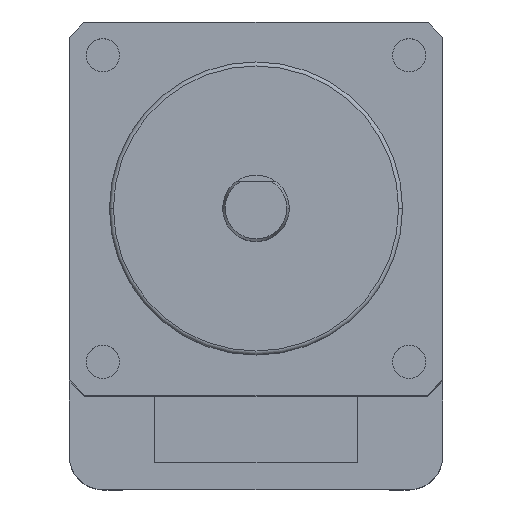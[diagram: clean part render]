
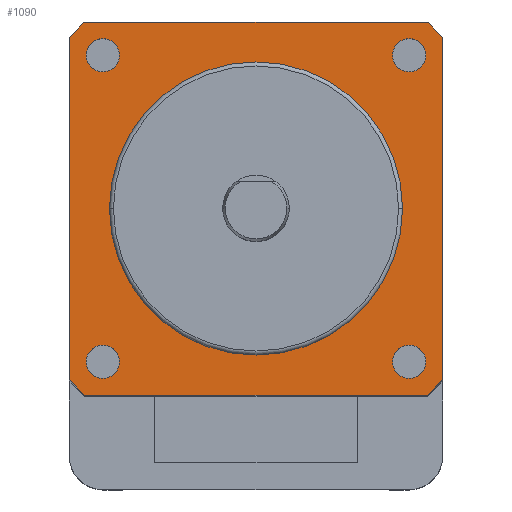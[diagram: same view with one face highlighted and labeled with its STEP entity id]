
A CAD part, top view. The second image highlights one B-rep face of the part: STEP entity #1090.
In plain terms, the highlighted planar face has unit normal (0, 0, 1).
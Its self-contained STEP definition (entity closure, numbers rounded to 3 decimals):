
#11 = EDGE_CURVE ( 'NONE', #673, #665, #1192, .T. ) ;
#37 = CARTESIAN_POINT ( 'NONE',  ( 12.75, -11.5, 0. ) ) ;
#49 = ORIENTED_EDGE ( 'NONE', *, *, #696, .T. ) ;
#61 = VECTOR ( 'NONE', #583, 1000. ) ;
#63 = CIRCLE ( 'NONE', #1466, 1.25 ) ;
#75 = EDGE_CURVE ( 'NONE', #378, #1123, #1669, .T. ) ;
#104 = FACE_OUTER_BOUND ( 'NONE', #1749, .T. ) ;
#126 = FACE_BOUND ( 'NONE', #1598, .T. ) ;
#127 = CARTESIAN_POINT ( 'NONE',  ( 12.845, 14., 0. ) ) ;
#147 = DIRECTION ( 'NONE',  ( 0., 0., -1. ) ) ;
#151 = DIRECTION ( 'NONE',  ( -1., 0., 0. ) ) ;
#152 = CARTESIAN_POINT ( 'NONE',  ( 11.5, 11.5, 0. ) ) ;
#167 = ORIENTED_EDGE ( 'NONE', *, *, #1077, .F. ) ;
#187 = EDGE_LOOP ( 'NONE', ( #1518, #980 ) ) ;
#194 = ORIENTED_EDGE ( 'NONE', *, *, #598, .F. ) ;
#195 = AXIS2_PLACEMENT_3D ( 'NONE', #1019, #727, #1774 ) ;
#223 = ORIENTED_EDGE ( 'NONE', *, *, #75, .F. ) ;
#229 = DIRECTION ( 'NONE',  ( 1., 0., 0. ) ) ;
#245 = VERTEX_POINT ( 'NONE', #1840 ) ;
#252 = DIRECTION ( 'NONE',  ( 0., 0., 1. ) ) ;
#271 = DIRECTION ( 'NONE',  ( 1., 0., 0. ) ) ;
#336 = VERTEX_POINT ( 'NONE', #712 ) ;
#342 = DIRECTION ( 'NONE',  ( 1., 0., 0. ) ) ;
#371 = CIRCLE ( 'NONE', #1039, 19. ) ;
#378 = VERTEX_POINT ( 'NONE', #866 ) ;
#390 = LINE ( 'NONE', #1517, #61 ) ;
#394 = DIRECTION ( 'NONE',  ( 1., 0., 0. ) ) ;
#399 = AXIS2_PLACEMENT_3D ( 'NONE', #413, #147, #151 ) ;
#406 = EDGE_CURVE ( 'NONE', #1063, #1165, #1105, .T. ) ;
#413 = CARTESIAN_POINT ( 'NONE',  ( 0., 0., 0. ) ) ;
#422 = EDGE_CURVE ( 'NONE', #847, #336, #63, .T. ) ;
#426 = CARTESIAN_POINT ( 'NONE',  ( 12.75, 11.5, 0. ) ) ;
#431 = VERTEX_POINT ( 'NONE', #1415 ) ;
#433 = EDGE_LOOP ( 'NONE', ( #473, #167 ) ) ;
#437 = DIRECTION ( 'NONE',  ( -1., 0., 0. ) ) ;
#445 = ORIENTED_EDGE ( 'NONE', *, *, #11, .F. ) ;
#453 = CARTESIAN_POINT ( 'NONE',  ( 0., 0., 0. ) ) ;
#467 = CIRCLE ( 'NONE', #195, 1.25 ) ;
#473 = ORIENTED_EDGE ( 'NONE', *, *, #1126, .F. ) ;
#516 = FACE_BOUND ( 'NONE', #572, .T. ) ;
#526 = EDGE_CURVE ( 'NONE', #378, #431, #1321, .T. ) ;
#555 = CARTESIAN_POINT ( 'NONE',  ( -12.845, 14., 0. ) ) ;
#566 = CARTESIAN_POINT ( 'NONE',  ( 0., 0., 0. ) ) ;
#568 = VERTEX_POINT ( 'NONE', #1737 ) ;
#572 = EDGE_LOOP ( 'NONE', ( #1363, #729 ) ) ;
#583 = DIRECTION ( 'NONE',  ( 0., 1., 0. ) ) ;
#586 = DIRECTION ( 'NONE',  ( 0., 1., 0. ) ) ;
#588 = CARTESIAN_POINT ( 'NONE',  ( -11.5, -11.5, 0. ) ) ;
#598 = EDGE_CURVE ( 'NONE', #1165, #1551, #933, .T. ) ;
#631 = CIRCLE ( 'NONE', #1767, 1.25 ) ;
#655 = CARTESIAN_POINT ( 'NONE',  ( 0., 0., 0. ) ) ;
#665 = VERTEX_POINT ( 'NONE', #1179 ) ;
#673 = VERTEX_POINT ( 'NONE', #426 ) ;
#686 = CIRCLE ( 'NONE', #1030, 1.25 ) ;
#695 = DIRECTION ( 'NONE',  ( -1., 0., 0. ) ) ;
#696 = EDGE_CURVE ( 'NONE', #1512, #1551, #1135, .T. ) ;
#712 = CARTESIAN_POINT ( 'NONE',  ( -10.25, 11.5, 0. ) ) ;
#725 = AXIS2_PLACEMENT_3D ( 'NONE', #655, #1690, #1827 ) ;
#727 = DIRECTION ( 'NONE',  ( 0., 0., 1. ) ) ;
#729 = ORIENTED_EDGE ( 'NONE', *, *, #937, .F. ) ;
#731 = AXIS2_PLACEMENT_3D ( 'NONE', #453, #763, #1806 ) ;
#763 = DIRECTION ( 'NONE',  ( 0., 0., -1. ) ) ;
#768 = CIRCLE ( 'NONE', #835, 1.25 ) ;
#773 = ORIENTED_EDGE ( 'NONE', *, *, #1703, .F. ) ;
#827 = VERTEX_POINT ( 'NONE', #37 ) ;
#834 = EDGE_CURVE ( 'NONE', #665, #673, #631, .T. ) ;
#835 = AXIS2_PLACEMENT_3D ( 'NONE', #588, #878, #271 ) ;
#847 = VERTEX_POINT ( 'NONE', #1522 ) ;
#856 = ORIENTED_EDGE ( 'NONE', *, *, #406, .F. ) ;
#862 = DIRECTION ( 'NONE',  ( 0., 0., -1. ) ) ;
#866 = CARTESIAN_POINT ( 'NONE',  ( -12.845, -14., 0. ) ) ;
#869 = CARTESIAN_POINT ( 'NONE',  ( 10.25, -11.5, 0. ) ) ;
#878 = DIRECTION ( 'NONE',  ( 0., 0., 1. ) ) ;
#904 = EDGE_CURVE ( 'NONE', #1512, #431, #1613, .T. ) ;
#913 = CARTESIAN_POINT ( 'NONE',  ( 14., 12.845, 0. ) ) ;
#933 = CIRCLE ( 'NONE', #399, 19. ) ;
#937 = EDGE_CURVE ( 'NONE', #245, #568, #686, .T. ) ;
#980 = ORIENTED_EDGE ( 'NONE', *, *, #422, .F. ) ;
#988 = ORIENTED_EDGE ( 'NONE', *, *, #904, .F. ) ;
#996 = CARTESIAN_POINT ( 'NONE',  ( 0., 0., 0. ) ) ;
#1019 = CARTESIAN_POINT ( 'NONE',  ( 11.5, -11.5, 0. ) ) ;
#1030 = AXIS2_PLACEMENT_3D ( 'NONE', #1538, #1697, #1683 ) ;
#1039 = AXIS2_PLACEMENT_3D ( 'NONE', #566, #862, #437 ) ;
#1063 = VERTEX_POINT ( 'NONE', #555 ) ;
#1077 = EDGE_CURVE ( 'NONE', #1168, #827, #1886, .T. ) ;
#1082 = VECTOR ( 'NONE', #394, 1000. ) ;
#1090 = ADVANCED_FACE ( 'NONE', ( #1299, #516, #126, #1818, #104 ), #1319, .F. ) ;
#1099 = DIRECTION ( 'NONE',  ( 1., 0., 0. ) ) ;
#1105 = LINE ( 'NONE', #1848, #1252 ) ;
#1108 = DIRECTION ( 'NONE',  ( 0., 0., 1. ) ) ;
#1114 = DIRECTION ( 'NONE',  ( 1., 0., 0. ) ) ;
#1123 = VERTEX_POINT ( 'NONE', #1621 ) ;
#1126 = EDGE_CURVE ( 'NONE', #827, #1168, #467, .T. ) ;
#1128 = CARTESIAN_POINT ( 'NONE',  ( -11.5, 11.5, 0. ) ) ;
#1135 = LINE ( 'NONE', #1193, #1270 ) ;
#1146 = EDGE_CURVE ( 'NONE', #568, #245, #768, .T. ) ;
#1165 = VERTEX_POINT ( 'NONE', #127 ) ;
#1168 = VERTEX_POINT ( 'NONE', #869 ) ;
#1171 = EDGE_CURVE ( 'NONE', #1355, #1063, #371, .T. ) ;
#1179 = CARTESIAN_POINT ( 'NONE',  ( 10.25, 11.5, 0. ) ) ;
#1192 = CIRCLE ( 'NONE', #1545, 1.25 ) ;
#1193 = CARTESIAN_POINT ( 'NONE',  ( 14., 0., 0. ) ) ;
#1213 = AXIS2_PLACEMENT_3D ( 'NONE', #1879, #252, #1294 ) ;
#1223 = DIRECTION ( 'NONE',  ( 0., 0., 1. ) ) ;
#1228 = CARTESIAN_POINT ( 'NONE',  ( 14., -12.845, 0. ) ) ;
#1249 = CARTESIAN_POINT ( 'NONE',  ( 11.5, 11.5, 0. ) ) ;
#1252 = VECTOR ( 'NONE', #229, 1000. ) ;
#1261 = DIRECTION ( 'NONE',  ( 0., 0., 1. ) ) ;
#1270 = VECTOR ( 'NONE', #586, 1000. ) ;
#1294 = DIRECTION ( 'NONE',  ( 1., 0., 0. ) ) ;
#1299 = FACE_BOUND ( 'NONE', #433, .T. ) ;
#1319 = PLANE ( 'NONE',  #1516 ) ;
#1321 = LINE ( 'NONE', #1754, #1082 ) ;
#1355 = VERTEX_POINT ( 'NONE', #1482 ) ;
#1363 = ORIENTED_EDGE ( 'NONE', *, *, #1146, .F. ) ;
#1415 = CARTESIAN_POINT ( 'NONE',  ( 12.845, -14., 0. ) ) ;
#1466 = AXIS2_PLACEMENT_3D ( 'NONE', #1128, #1715, #1114 ) ;
#1482 = CARTESIAN_POINT ( 'NONE',  ( -14., 12.845, 0. ) ) ;
#1512 = VERTEX_POINT ( 'NONE', #1228 ) ;
#1516 = AXIS2_PLACEMENT_3D ( 'NONE', #996, #1587, #695 ) ;
#1517 = CARTESIAN_POINT ( 'NONE',  ( -14., 0., 0. ) ) ;
#1518 = ORIENTED_EDGE ( 'NONE', *, *, #1741, .F. ) ;
#1522 = CARTESIAN_POINT ( 'NONE',  ( -12.75, 11.5, 0. ) ) ;
#1526 = CARTESIAN_POINT ( 'NONE',  ( -11.5, 11.5, 0. ) ) ;
#1538 = CARTESIAN_POINT ( 'NONE',  ( -11.5, -11.5, 0. ) ) ;
#1545 = AXIS2_PLACEMENT_3D ( 'NONE', #152, #1223, #1785 ) ;
#1551 = VERTEX_POINT ( 'NONE', #913 ) ;
#1587 = DIRECTION ( 'NONE',  ( 0., 0., -1. ) ) ;
#1598 = EDGE_LOOP ( 'NONE', ( #445, #1700 ) ) ;
#1613 = CIRCLE ( 'NONE', #725, 19. ) ;
#1621 = CARTESIAN_POINT ( 'NONE',  ( -14., -12.845, 0. ) ) ;
#1669 = CIRCLE ( 'NONE', #731, 19. ) ;
#1672 = ORIENTED_EDGE ( 'NONE', *, *, #526, .T. ) ;
#1683 = DIRECTION ( 'NONE',  ( 1., 0., 0. ) ) ;
#1690 = DIRECTION ( 'NONE',  ( 0., 0., -1. ) ) ;
#1697 = DIRECTION ( 'NONE',  ( 0., 0., 1. ) ) ;
#1700 = ORIENTED_EDGE ( 'NONE', *, *, #834, .F. ) ;
#1703 = EDGE_CURVE ( 'NONE', #1123, #1355, #390, .T. ) ;
#1715 = DIRECTION ( 'NONE',  ( 0., 0., 1. ) ) ;
#1737 = CARTESIAN_POINT ( 'NONE',  ( -10.25, -11.5, 0. ) ) ;
#1741 = EDGE_CURVE ( 'NONE', #336, #847, #1837, .T. ) ;
#1749 = EDGE_LOOP ( 'NONE', ( #773, #223, #1672, #988, #49, #194, #856, #1803 ) ) ;
#1753 = AXIS2_PLACEMENT_3D ( 'NONE', #1526, #1108, #342 ) ;
#1754 = CARTESIAN_POINT ( 'NONE',  ( 0., -14., 0. ) ) ;
#1767 = AXIS2_PLACEMENT_3D ( 'NONE', #1249, #1261, #1099 ) ;
#1774 = DIRECTION ( 'NONE',  ( 1., 0., 0. ) ) ;
#1785 = DIRECTION ( 'NONE',  ( 1., 0., 0. ) ) ;
#1803 = ORIENTED_EDGE ( 'NONE', *, *, #1171, .F. ) ;
#1806 = DIRECTION ( 'NONE',  ( -1., 0., 0. ) ) ;
#1818 = FACE_BOUND ( 'NONE', #187, .T. ) ;
#1827 = DIRECTION ( 'NONE',  ( -1., 0., 0. ) ) ;
#1837 = CIRCLE ( 'NONE', #1753, 1.25 ) ;
#1840 = CARTESIAN_POINT ( 'NONE',  ( -12.75, -11.5, 0. ) ) ;
#1848 = CARTESIAN_POINT ( 'NONE',  ( 0., 14., 0. ) ) ;
#1879 = CARTESIAN_POINT ( 'NONE',  ( 11.5, -11.5, 0. ) ) ;
#1886 = CIRCLE ( 'NONE', #1213, 1.25 ) ;
